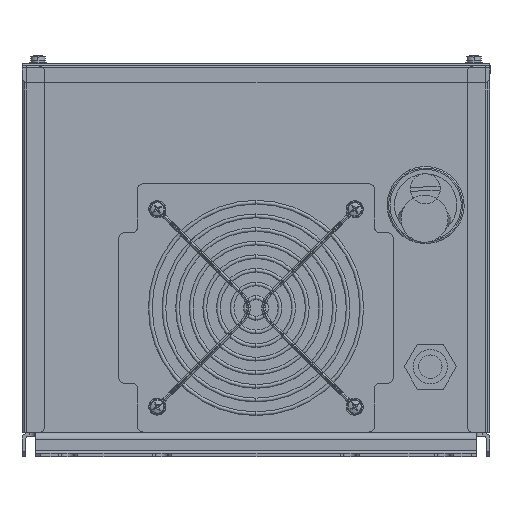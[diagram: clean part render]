
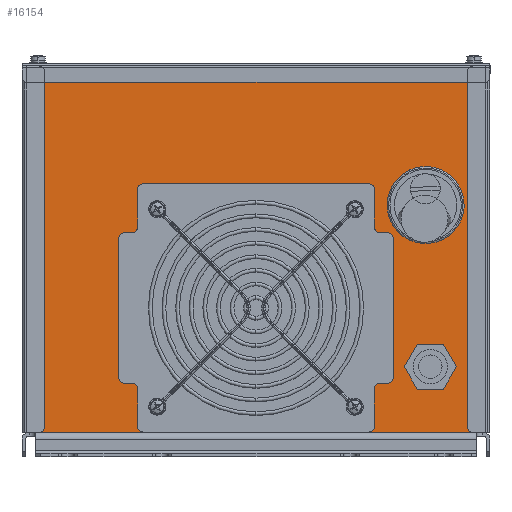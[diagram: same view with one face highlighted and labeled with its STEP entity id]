
A CAD part, front view. The second image highlights one B-rep face of the part: STEP entity #16154.
In plain terms, the highlighted planar face has unit normal (0, -1, 0).
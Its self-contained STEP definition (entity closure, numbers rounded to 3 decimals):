
#15744 = EDGE_CURVE ( 'NONE', #15764, #15745, #25489, .T. ) ;
#15745 = VERTEX_POINT ( 'NONE', #25399 ) ;
#15764 = VERTEX_POINT ( 'NONE', #25528 ) ;
#16127 = VERTEX_POINT ( 'NONE', #26353 ) ;
#16129 = VERTEX_POINT ( 'NONE', #26352 ) ;
#16133 = EDGE_CURVE ( 'NONE', #16127, #16129, #26699, .T. ) ;
#16154 = ADVANCED_FACE ( 'NONE', ( #26740, #26739, #26738 ), #26722, .F. ) ;
#16155 = EDGE_LOOP ( 'NONE', ( #16156, #16354 ) ) ;
#16156 = ORIENTED_EDGE ( 'NONE', *, *, #16157, .F. ) ;
#16157 = EDGE_CURVE ( 'NONE', #15745, #15764, #26713, .T. ) ;
#16160 = VERTEX_POINT ( 'NONE', #26708 ) ;
#16171 = EDGE_CURVE ( 'NONE', #16160, #16193, #26668, .T. ) ;
#16187 = VERTEX_POINT ( 'NONE', #26618 ) ;
#16193 = VERTEX_POINT ( 'NONE', #26596 ) ;
#16203 = EDGE_CURVE ( 'NONE', #16193, #16187, #26944, .T. ) ;
#16205 = EDGE_CURVE ( 'NONE', #16187, #16206, #26844, .T. ) ;
#16206 = VERTEX_POINT ( 'NONE', #26986 ) ;
#16222 = EDGE_CURVE ( 'NONE', #16206, #16160, #26959, .T. ) ;
#16354 = ORIENTED_EDGE ( 'NONE', *, *, #15744, .F. ) ;
#16359 = ORIENTED_EDGE ( 'NONE', *, *, #16205, .F. ) ;
#16360 = ORIENTED_EDGE ( 'NONE', *, *, #16203, .F. ) ;
#16361 = ORIENTED_EDGE ( 'NONE', *, *, #16171, .F. ) ;
#16362 = ORIENTED_EDGE ( 'NONE', *, *, #16222, .F. ) ;
#16439 = EDGE_LOOP ( 'NONE', ( #16440, #16441 ) ) ;
#16440 = ORIENTED_EDGE ( 'NONE', *, *, #16443, .F. ) ;
#16441 = ORIENTED_EDGE ( 'NONE', *, *, #16133, .F. ) ;
#16442 = EDGE_LOOP ( 'NONE', ( #16359, #16360, #16361, #16362 ) ) ;
#16443 = EDGE_CURVE ( 'NONE', #16129, #16127, #27636, .T. ) ;
#25399 = CARTESIAN_POINT ( 'NONE',  ( 226.75, -550.75, 48. ) ) ;
#25400 = DIRECTION ( 'NONE',  ( 1., 0., 0. ) ) ;
#25401 = DIRECTION ( 'NONE',  ( 0., -1., 0. ) ) ;
#25402 = CARTESIAN_POINT ( 'NONE',  ( 217.25, -550.75, 48. ) ) ;
#25488 = AXIS2_PLACEMENT_3D ( 'NONE', #25402, #25401, #25400 ) ;
#25489 = CIRCLE ( 'NONE', #25488, 9.5 ) ;
#25528 = CARTESIAN_POINT ( 'NONE',  ( 207.75, -550.75, 48. ) ) ;
#26352 = CARTESIAN_POINT ( 'NONE',  ( 233.75, -550.75, 134. ) ) ;
#26353 = CARTESIAN_POINT ( 'NONE',  ( 195.75, -550.75, 134. ) ) ;
#26567 = DIRECTION ( 'NONE',  ( 1., 0., 0. ) ) ;
#26568 = DIRECTION ( 'NONE',  ( 0., -1., 0. ) ) ;
#26569 = CARTESIAN_POINT ( 'NONE',  ( 214.75, -550.75, 134. ) ) ;
#26570 = AXIS2_PLACEMENT_3D ( 'NONE', #26569, #26568, #26567 ) ;
#26596 = CARTESIAN_POINT ( 'NONE',  ( 246.75, -550.75, 13. ) ) ;
#26618 = CARTESIAN_POINT ( 'NONE',  ( 2.25, -550.75, 13. ) ) ;
#26665 = DIRECTION ( 'NONE',  ( 0., 0., -1. ) ) ;
#26666 = VECTOR ( 'NONE', #26665, 1000. ) ;
#26667 = CARTESIAN_POINT ( 'NONE',  ( 246.75, -550.75, 13. ) ) ;
#26668 = LINE ( 'NONE', #26667, #26666 ) ;
#26699 = CIRCLE ( 'NONE', #26570, 19. ) ;
#26708 = CARTESIAN_POINT ( 'NONE',  ( 246.75, -550.75, 208. ) ) ;
#26709 = DIRECTION ( 'NONE',  ( 1., 0., 0. ) ) ;
#26710 = DIRECTION ( 'NONE',  ( 0., -1., 0. ) ) ;
#26711 = CARTESIAN_POINT ( 'NONE',  ( 217.25, -550.75, 48. ) ) ;
#26712 = AXIS2_PLACEMENT_3D ( 'NONE', #26711, #26710, #26709 ) ;
#26713 = CIRCLE ( 'NONE', #26712, 9.5 ) ;
#26714 = DIRECTION ( 'NONE',  ( -1., 0., 0. ) ) ;
#26715 = DIRECTION ( 'NONE',  ( 0., 1., 0. ) ) ;
#26716 = CARTESIAN_POINT ( 'NONE',  ( 2.25, -550.75, 13. ) ) ;
#26717 = AXIS2_PLACEMENT_3D ( 'NONE', #26716, #26715, #26714 ) ;
#26722 = PLANE ( 'NONE',  #26717 ) ;
#26738 = FACE_OUTER_BOUND ( 'NONE', #16442, .T. ) ;
#26739 = FACE_BOUND ( 'NONE', #16439, .T. ) ;
#26740 = FACE_BOUND ( 'NONE', #16155, .T. ) ;
#26844 = LINE ( 'NONE', #26981, #26980 ) ;
#26914 = DIRECTION ( 'NONE',  ( -1., 0., 0. ) ) ;
#26915 = VECTOR ( 'NONE', #26914, 1000. ) ;
#26916 = CARTESIAN_POINT ( 'NONE',  ( 2.25, -550.75, 13. ) ) ;
#26944 = LINE ( 'NONE', #26916, #26915 ) ;
#26959 = LINE ( 'NONE', #26971, #26970 ) ;
#26969 = DIRECTION ( 'NONE',  ( 1., 0., 0. ) ) ;
#26970 = VECTOR ( 'NONE', #26969, 1000. ) ;
#26971 = CARTESIAN_POINT ( 'NONE',  ( 2.25, -550.75, 208. ) ) ;
#26979 = DIRECTION ( 'NONE',  ( 0., 0., 1. ) ) ;
#26980 = VECTOR ( 'NONE', #26979, 1000. ) ;
#26981 = CARTESIAN_POINT ( 'NONE',  ( 2.25, -550.75, 13. ) ) ;
#26986 = CARTESIAN_POINT ( 'NONE',  ( 2.25, -550.75, 208. ) ) ;
#27632 = DIRECTION ( 'NONE',  ( 1., 0., 0. ) ) ;
#27633 = DIRECTION ( 'NONE',  ( 0., -1., 0. ) ) ;
#27634 = CARTESIAN_POINT ( 'NONE',  ( 214.75, -550.75, 134. ) ) ;
#27635 = AXIS2_PLACEMENT_3D ( 'NONE', #27634, #27633, #27632 ) ;
#27636 = CIRCLE ( 'NONE', #27635, 19. ) ;
